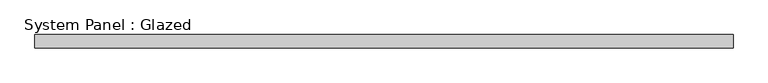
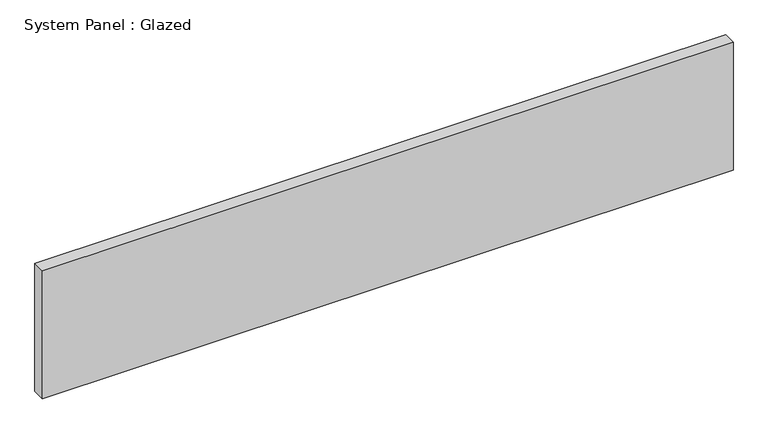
"""IFC4 building model written with IfcOpenShell, lengths in millimetres: plate geometry, System Panel : Glazed."""

from ifc_helpers import new_model, si_unit, origin, origin_with_axes, place, context, project, spatial, polyline, outline, extrude, source, transform, mapped, element, save


def system_panel_glazed_b51f43c0(model_context):
    return source(origin(), model_context, "Body", "SweptSolid", [
        extrude(outline(polyline([(663.2463364, 24.5), (-663.2463364, 24.5), (-663.2463364, 49.5), (663.2463364, 49.5), (663.2463364, 24.5)])), origin_with_axes(), (0.0, 0.0, 1.0), 260.0),
    ])


if __name__ == "__main__":
    model = new_model("IFC4")
    model_context = context("Model", 3, world=origin())
    ifc_project = project(units=[si_unit("LENGTHUNIT", "METRE", prefix="MILLI")], contexts=[model_context])
    site = spatial("IfcSite", under=ifc_project)
    building = spatial("IfcBuilding", under=site)
    placement = place(None, origin())
    system_panel_glazed_shape = system_panel_glazed_b51f43c0(model_context)
    element("IfcPlate", 1, ObjectType="System Panel : Glazed", at=placement, inside=building, context=model_context, shape_type="MappedRepresentation", body=[
        mapped(system_panel_glazed_shape, transform((0.0, 0.0, 0.0), x_axis=(1.0, 0.0, 0.0), y_axis=(0.0, 1.0, 0.0), z_axis=(0.0, 0.0, 1.0))),
    ])
    save(model, "model.ifc")
